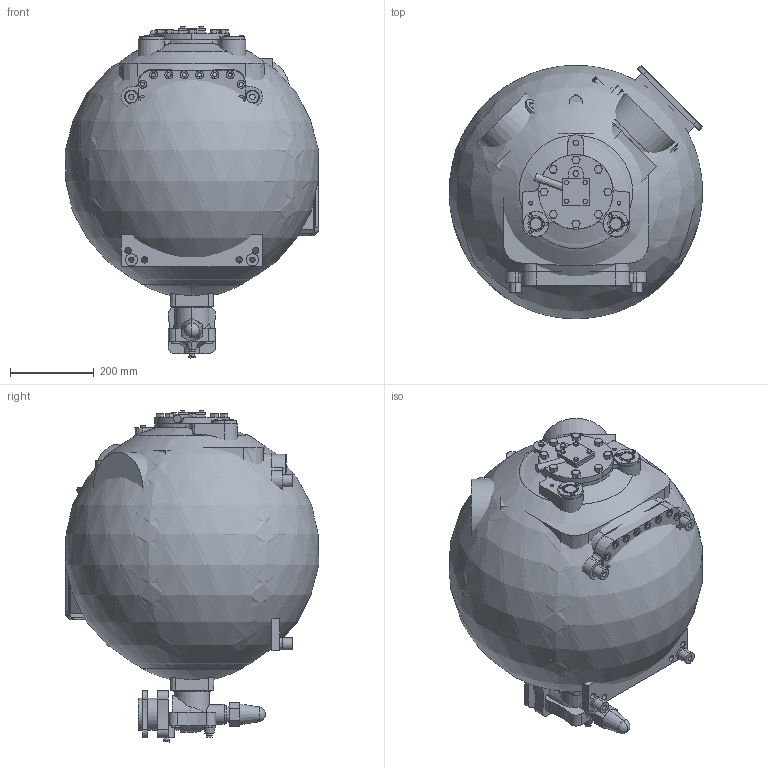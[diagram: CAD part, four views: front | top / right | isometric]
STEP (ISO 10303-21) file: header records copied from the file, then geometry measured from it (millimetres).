
FILE_DESCRIPTION((''),'2;1');
FILE_NAME('PRT0010','2004-01-22T',('mahipatir'),(''),'PRO/ENGINEER BY PARAMETRIC TECHNOLOGY CORPORATION, 2003161','PRO/ENGINEER BY PARAMETRIC TECHNOLOGY CORPORATION, 2003161','');
FILE_SCHEMA(('CONFIG_CONTROL_DESIGN','SHAPE_APPEARANCE_LAYERS_GROUPS'));
Products named in the file (1): PRT0010
Bounding box: 605.65 x 605.65 x 792.78 mm (x, y, z)
Surface area: 7009898.2 mm2 (no closed solid volume)
Topology: 0 solids, 0 shells, 1195 faces, 5941 edges, 5930 vertices
Faces by surface type: bspline 1179, sphere 10, torus 6
Entity records: 131897 total; most frequent: CARTESIAN_POINT 61030, DIRECTION 7071, DEFINITIONAL_REPRESENTATION 5916, PCURVE 5916, COMPOSITE_CURVE_SEGMENT 5916, TRIMMED_CURVE 5890, PRESENTATION_STYLE_ASSIGNMENT 4904, VECTOR 4741
